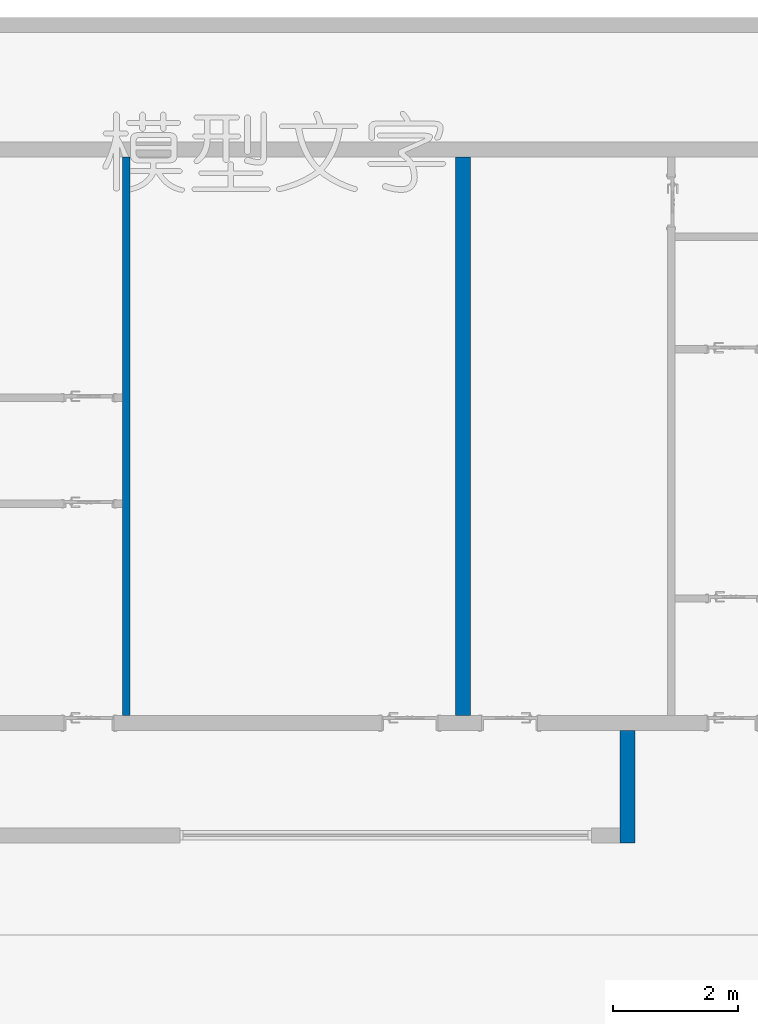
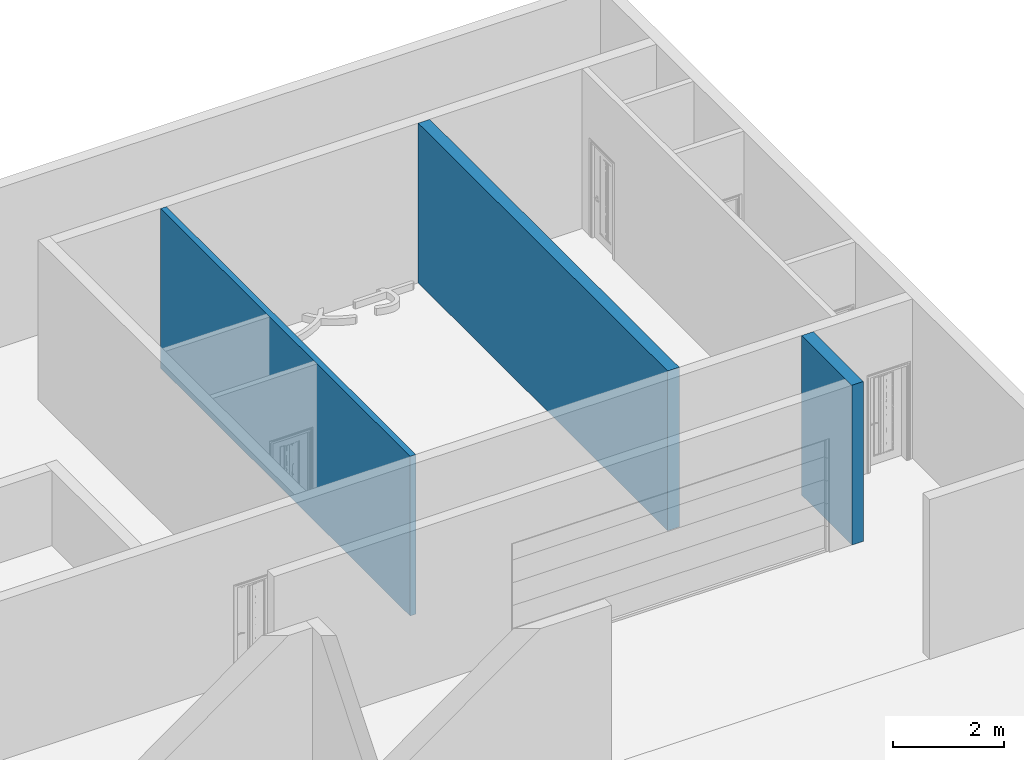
# One storey, part 12 of 24: 3 walls.
"""IFC2X3 building model written with IfcOpenShell, lengths in millimetres."""

from ifc_helpers import new_model, entity, si_unit, converted_unit, derived_unit, direction, frame, frame_2d, origin, place, context, subcontext, project, spatial, rectangle, extrude, material, layer, layer_set, layer_usage, type_object, element, save


model = new_model("IFC2X3")

# Units and contexts
model_context = context("Model", 3, precision=0.01, world=origin(), true_north=direction((6.12303176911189e-17, 1.0)))
body_context = subcontext(model_context, "Body", "Model", "MODEL_VIEW")
ifc_project = project(units=[si_unit("LENGTHUNIT", "METRE", prefix="MILLI"), si_unit("AREAUNIT", "SQUARE_METRE"), si_unit("VOLUMEUNIT", "CUBIC_METRE"), converted_unit("PLANEANGLEUNIT", "DEGREE", entity("IfcRatioMeasure", 0.0174532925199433), si_unit("PLANEANGLEUNIT", "RADIAN"), dimensions=[0, 0, 0, 0, 0, 0, 0]), si_unit("MASSUNIT", "GRAM", prefix="KILO"), derived_unit("MASSDENSITYUNIT", [(si_unit("MASSUNIT", "GRAM", prefix="KILO"), 1), (si_unit("LENGTHUNIT", "METRE"), -3)]), si_unit("TIMEUNIT", "SECOND"), si_unit("FREQUENCYUNIT", "HERTZ"), si_unit("THERMODYNAMICTEMPERATUREUNIT", "DEGREE_CELSIUS"), derived_unit("THERMALTRANSMITTANCEUNIT", [(si_unit("MASSUNIT", "GRAM", prefix="KILO"), 1), (si_unit("THERMODYNAMICTEMPERATUREUNIT", "KELVIN"), -1), (si_unit("TIMEUNIT", "SECOND"), -3)]), derived_unit("VOLUMETRICFLOWRATEUNIT", [(si_unit("LENGTHUNIT", "METRE"), 3), (si_unit("TIMEUNIT", "SECOND"), -1)]), si_unit("ELECTRICCURRENTUNIT", "AMPERE"), si_unit("ELECTRICVOLTAGEUNIT", "VOLT"), si_unit("POWERUNIT", "WATT"), si_unit("FORCEUNIT", "NEWTON", prefix="KILO"), si_unit("ILLUMINANCEUNIT", "LUX"), si_unit("LUMINOUSFLUXUNIT", "LUMEN"), si_unit("LUMINOUSINTENSITYUNIT", "CANDELA"), derived_unit("USERDEFINED", [(si_unit("MASSUNIT", "GRAM", prefix="KILO"), -1), (si_unit("LENGTHUNIT", "METRE"), -2), (si_unit("TIMEUNIT", "SECOND"), 3), (si_unit("LUMINOUSFLUXUNIT", "LUMEN"), 1)]), derived_unit("LINEARVELOCITYUNIT", [(si_unit("LENGTHUNIT", "METRE"), 1), (si_unit("TIMEUNIT", "SECOND"), -1)]), si_unit("PRESSUREUNIT", "PASCAL"), derived_unit("USERDEFINED", [(si_unit("LENGTHUNIT", "METRE"), -2), (si_unit("MASSUNIT", "GRAM", prefix="KILO"), 1), (si_unit("TIMEUNIT", "SECOND"), -2)])], contexts=[model_context])

# Site, building, storey
site_placement = place(None, origin())
site = spatial("IfcSite", under=ifc_project, at=site_placement, Name="表面", CompositionType="ELEMENT")
building_placement = place(site_placement, origin())
building = spatial("IfcBuilding", under=site, at=building_placement, CompositionType="ELEMENT")
storey_placement = place(building_placement, frame((0.0, 0.0, -3500.0)))
storey = spatial("IfcBuildingStorey", under=building, at=storey_placement, Name="-1F", CompositionType="ELEMENT", Elevation=-3500.0)

# Walls
ifc_material_1 = material(Name="白色涂料")
ifc_layer_1 = layer(ifc_material_1, 10.0)
ifc_material_2 = material(Name="默认墙")
ifc_layer_2 = layer(ifc_material_2, 220.0)
ifc_layer_3 = layer(ifc_material_1, 10.0)
ifc_layer_set_1 = layer_set([ifc_layer_1, ifc_layer_2, ifc_layer_3], Name="基本墙:粉刷墙240")
ifc_layer_usage_1 = layer_usage(ifc_layer_set_1, "AXIS2", "NEGATIVE", 120.0)
wall_type_1 = type_object("IfcWallType", Name="基本墙:粉刷墙240", PredefinedType="STANDARD", material=ifc_layer_set_1)
wall_1_placement = place(storey_placement, frame((8469.75008735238, -10627.8459129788, 0.0), z_axis=(0.0, 0.0, 1.0), x_axis=(0.0, 1.0, 0.0)))
element("IfcWallStandardCase", 1, at=wall_1_placement, inside=storey, type_object=wall_type_1, material=ifc_layer_usage_1, Name="基本墙:粉刷墙240", ObjectType="基本墙:粉刷墙240", context=body_context, shape_type="SweptSolid", body=[
    extrude(rectangle(XDim=1800.00000000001, YDim=240.0, at=frame_2d((900.000000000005, 0.0), x_axis=(-1.0, 0.0))), origin(), (0.0, 0.0, 1.0), 3500.0),
])
ifc_layer_usage_2 = layer_usage(ifc_layer_set_1, "AXIS2", "NEGATIVE", 120.0)
wall_2_placement = place(storey_placement, frame((5829.75008735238, -8587.84591297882, 0.0), z_axis=(0.0, 0.0, 1.0), x_axis=(0.0, 1.0, 0.0)))
element("IfcWallStandardCase", 2, at=wall_2_placement, inside=storey, type_object=wall_type_1, material=ifc_layer_usage_2, Name="基本墙:粉刷墙240", ObjectType="基本墙:粉刷墙240", context=body_context, shape_type="SweptSolid", body=[
    extrude(rectangle(XDim=8959.99999999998, YDim=240.0, at=frame_2d((4479.99999999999, -1.91846538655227e-13), x_axis=(-1.0, 0.0))), origin(), (0.0, 0.0, 1.0), 3500.0),
])
ifc_layer_4 = layer(ifc_material_1, 10.0)
ifc_layer_5 = layer(ifc_material_2, 100.0)
ifc_layer_6 = layer(ifc_material_1, 10.0)
ifc_layer_set_2 = layer_set([ifc_layer_4, ifc_layer_5, ifc_layer_6], Name="基本墙:粉刷墙120")
ifc_layer_usage_3 = layer_usage(ifc_layer_set_2, "AXIS2", "NEGATIVE", 60.0)
wall_type_2 = type_object("IfcWallType", Name="基本墙:粉刷墙120", PredefinedType="STANDARD", material=ifc_layer_set_2)
wall_3_placement = place(storey_placement, frame((429.750087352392, 372.154087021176, 0.0), z_axis=(0.0, 0.0, 1.0), x_axis=(0.0, -1.0, 0.0)))
element("IfcWallStandardCase", 3, at=wall_3_placement, inside=storey, type_object=wall_type_2, material=ifc_layer_usage_3, Name="基本墙:粉刷墙120", ObjectType="基本墙:粉刷墙120", context=body_context, shape_type="SweptSolid", body=[
    extrude(rectangle(XDim=8959.99999999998, YDim=120.0, at=frame_2d((4479.99999999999, -7.105427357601e-15), x_axis=(-1.0, 0.0))), origin(), (0.0, 0.0, 1.0), 3500.0),
])

save(model, "model.ifc")
